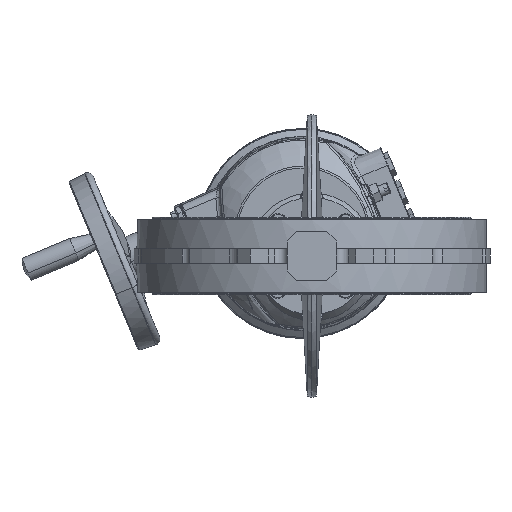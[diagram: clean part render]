
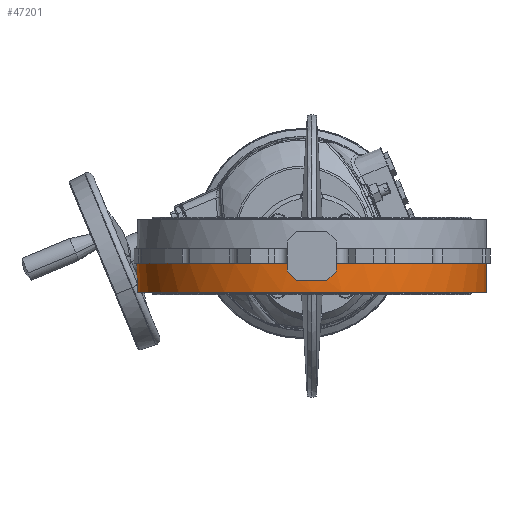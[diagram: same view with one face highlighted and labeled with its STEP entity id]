
A CAD part, front view. The second image highlights one B-rep face of the part: STEP entity #47201.
In plain terms, the highlighted conical face has half-angle 1.013 degrees and reference radius 186.548 mm.
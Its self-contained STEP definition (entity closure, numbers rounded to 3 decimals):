
#314 = DIRECTION ( 'NONE',  ( 0., 0., 1. ) ) ;
#1687 = CARTESIAN_POINT ( 'NONE',  ( 26., -184.727, -7.5 ) ) ;
#1875 = AXIS2_PLACEMENT_3D ( 'NONE', #25846, #92886, #27451 ) ;
#2343 = VERTEX_POINT ( 'NONE', #75138 ) ;
#5313 = VERTEX_POINT ( 'NONE', #12832 ) ;
#7457 = ORIENTED_EDGE ( 'NONE', *, *, #47027, .T. ) ;
#7886 = ORIENTED_EDGE ( 'NONE', *, *, #54599, .T. ) ;
#10441 = CARTESIAN_POINT ( 'NONE',  ( 26., -184.677, -10.333 ) ) ;
#11300 = DIRECTION ( 'NONE',  ( 0., 0., 1. ) ) ;
#11325 = DIRECTION ( 'NONE',  ( 1., 0., 0. ) ) ;
#11870 = AXIS2_PLACEMENT_3D ( 'NONE', #74496, #80104, #105189 ) ;
#12832 = CARTESIAN_POINT ( 'NONE',  ( 16., -185.532, -26. ) ) ;
#13002 = ORIENTED_EDGE ( 'NONE', *, *, #50093, .T. ) ;
#14525 = CARTESIAN_POINT ( 'NONE',  ( -16., -185.532, -26. ) ) ;
#14737 = ORIENTED_EDGE ( 'NONE', *, *, #72817, .T. ) ;
#14813 = CARTESIAN_POINT ( 'NONE',  ( 26., -184.576, -16. ) ) ;
#15525 = VERTEX_POINT ( 'NONE', #19373 ) ;
#16071 = AXIS2_PLACEMENT_3D ( 'NONE', #70215, #11300, #37524 ) ;
#16290 = EDGE_CURVE ( 'NONE', #2343, #5313, #59011, .T. ) ;
#18242 = ORIENTED_EDGE ( 'NONE', *, *, #88770, .T. ) ;
#19373 = CARTESIAN_POINT ( 'NONE',  ( -186., 0., -38.5 ) ) ;
#19984 = ORIENTED_EDGE ( 'NONE', *, *, #22987, .T. ) ;
#21399 = LINE ( 'NONE', #47042, #55746 ) ;
#22987 = EDGE_CURVE ( 'NONE', #5313, #49940, #57233, .T. ) ;
#24568 = CIRCLE ( 'NONE', #16071, 186. ) ;
#24607 = CIRCLE ( 'NONE', #1875, 186.548 ) ;
#25408 = EDGE_LOOP ( 'NONE', ( #29718, #7886, #14737, #29647, #13002, #48283, #19984, #55882, #18242, #7457 ) ) ;
#25846 = CARTESIAN_POINT ( 'NONE',  ( 0., 0., -7.5 ) ) ;
#26657 = CARTESIAN_POINT ( 'NONE',  ( -26., -184.727, -7.5 ) ) ;
#27451 = DIRECTION ( 'NONE',  ( 1., 0., 0. ) ) ;
#27881 = DIRECTION ( 'NONE',  ( 0.018, 0., 1. ) ) ;
#29123 = CARTESIAN_POINT ( 'NONE',  ( -16., -185.532, -26. ) ) ;
#29647 = ORIENTED_EDGE ( 'NONE', *, *, #34609, .T. ) ;
#29718 = ORIENTED_EDGE ( 'NONE', *, *, #102288, .F. ) ;
#29855 = CARTESIAN_POINT ( 'NONE',  ( -19.342, -185.304, -22.658 ) ) ;
#31002 = VERTEX_POINT ( 'NONE', #70270 ) ;
#31495 = CARTESIAN_POINT ( 'NONE',  ( 0., 0., -7.5 ) ) ;
#33714 = VERTEX_POINT ( 'NONE', #95697 ) ;
#34355 = CARTESIAN_POINT ( 'NONE',  ( -26., -184.626, -13.167 ) ) ;
#34609 = EDGE_CURVE ( 'NONE', #33714, #97966, #24607, .T. ) ;
#35393 = CARTESIAN_POINT ( 'NONE',  ( 0., 0., -7.5 ) ) ;
#37266 = CARTESIAN_POINT ( 'NONE',  ( -26., -184.576, -16. ) ) ;
#37524 = DIRECTION ( 'NONE',  ( 1., 0., 0. ) ) ;
#37654 =( BOUNDED_CURVE ( )  B_SPLINE_CURVE ( 3, ( #14525, #29855, #105087, #47827 ),
 .UNSPECIFIED., .F., .F. ) 
 B_SPLINE_CURVE_WITH_KNOTS ( ( 4, 4 ),
 ( 4.781, 4.835 ),
 .UNSPECIFIED. ) 
 CURVE ( )  GEOMETRIC_REPRESENTATION_ITEM ( )  RATIONAL_B_SPLINE_CURVE ( ( 1., 1., 1., 1. ) ) 
 REPRESENTATION_ITEM ( '' )  );
#41498 = CARTESIAN_POINT ( 'NONE',  ( -26., -184.576, -16. ) ) ;
#44923 = CIRCLE ( 'NONE', #58881, 186.548 ) ;
#47027 = EDGE_CURVE ( 'NONE', #31002, #96514, #44923, .T. ) ;
#47042 = CARTESIAN_POINT ( 'NONE',  ( -186.548, 0., -7.5 ) ) ;
#47201 = ADVANCED_FACE ( 'NONE', ( #56581 ), #72862, .T. ) ;
#47827 = CARTESIAN_POINT ( 'NONE',  ( -26., -184.576, -16. ) ) ;
#48116 = CARTESIAN_POINT ( 'NONE',  ( 22.676, -184.985, -19.324 ) ) ;
#48283 = ORIENTED_EDGE ( 'NONE', *, *, #16290, .T. ) ;
#49940 = VERTEX_POINT ( 'NONE', #29123 ) ;
#50093 = EDGE_CURVE ( 'NONE', #97966, #2343, #73183, .T. ) ;
#50671 = DIRECTION ( 'NONE',  ( 0., 0., -1. ) ) ;
#54599 = EDGE_CURVE ( 'NONE', #15525, #71016, #24568, .T. ) ;
#54789 = EDGE_CURVE ( 'NONE', #49940, #62172, #37654, .T. ) ;
#55746 = VECTOR ( 'NONE', #71601, 1000. ) ;
#55762 = CARTESIAN_POINT ( 'NONE',  ( 19.342, -185.304, -22.658 ) ) ;
#55882 = ORIENTED_EDGE ( 'NONE', *, *, #54789, .T. ) ;
#56581 = FACE_OUTER_BOUND ( 'NONE', #25408, .T. ) ;
#57233 = CIRCLE ( 'NONE', #11870, 186.221 ) ;
#58881 = AXIS2_PLACEMENT_3D ( 'NONE', #35393, #50671, #11325 ) ;
#59011 =( BOUNDED_CURVE ( )  B_SPLINE_CURVE ( 3, ( #14813, #48116, #55762, #63447 ),
 .UNSPECIFIED., .F., .T. ) 
 B_SPLINE_CURVE_WITH_KNOTS ( ( 4, 4 ),
 ( 1.448, 1.502 ),
 .UNSPECIFIED. ) 
 CURVE ( )  GEOMETRIC_REPRESENTATION_ITEM ( )  RATIONAL_B_SPLINE_CURVE ( ( 1., 1., 1., 1. ) ) 
 REPRESENTATION_ITEM ( '' )  );
#60136 = CARTESIAN_POINT ( 'NONE',  ( 186.548, 0., -7.5 ) ) ;
#62172 = VERTEX_POINT ( 'NONE', #37266 ) ;
#63447 = CARTESIAN_POINT ( 'NONE',  ( 16., -185.532, -26. ) ) ;
#65830 = CARTESIAN_POINT ( 'NONE',  ( -186.548, 0., -7.5 ) ) ;
#70215 = CARTESIAN_POINT ( 'NONE',  ( 0., 0., -38.5 ) ) ;
#70270 = CARTESIAN_POINT ( 'NONE',  ( -26., -184.727, -7.5 ) ) ;
#71016 = VERTEX_POINT ( 'NONE', #95129 ) ;
#71601 = DIRECTION ( 'NONE',  ( -0.018, 0., 1. ) ) ;
#72817 = EDGE_CURVE ( 'NONE', #71016, #33714, #92786, .T. ) ;
#72862 = CONICAL_SURFACE ( 'NONE', #79769, 186.548, 0.018 ) ;
#73183 = B_SPLINE_CURVE_WITH_KNOTS ( 'NONE', 3,
 ( #1687, #10441, #92261, #83548 ),
 .UNSPECIFIED., .F., .F.,
 ( 4, 4 ),
 ( 0., 1. ),
 .UNSPECIFIED. ) ;
#74496 = CARTESIAN_POINT ( 'NONE',  ( 0., 0., -26. ) ) ;
#75138 = CARTESIAN_POINT ( 'NONE',  ( 26., -184.576, -16. ) ) ;
#79769 = AXIS2_PLACEMENT_3D ( 'NONE', #31495, #314, #83758 ) ;
#80104 = DIRECTION ( 'NONE',  ( 0., 0., -1. ) ) ;
#83548 = CARTESIAN_POINT ( 'NONE',  ( 26., -184.576, -16. ) ) ;
#83758 = DIRECTION ( 'NONE',  ( 1., 0., 0. ) ) ;
#88770 = EDGE_CURVE ( 'NONE', #62172, #31002, #104013, .T. ) ;
#89228 = CARTESIAN_POINT ( 'NONE',  ( 26., -184.727, -7.5 ) ) ;
#92261 = CARTESIAN_POINT ( 'NONE',  ( 26., -184.626, -13.167 ) ) ;
#92786 = LINE ( 'NONE', #60136, #95094 ) ;
#92886 = DIRECTION ( 'NONE',  ( 0., 0., -1. ) ) ;
#95094 = VECTOR ( 'NONE', #27881, 1000. ) ;
#95129 = CARTESIAN_POINT ( 'NONE',  ( 186., 0., -38.5 ) ) ;
#95697 = CARTESIAN_POINT ( 'NONE',  ( 186.548, 0., -7.5 ) ) ;
#96514 = VERTEX_POINT ( 'NONE', #65830 ) ;
#97966 = VERTEX_POINT ( 'NONE', #89228 ) ;
#102288 = EDGE_CURVE ( 'NONE', #15525, #96514, #21399, .T. ) ;
#104013 = B_SPLINE_CURVE_WITH_KNOTS ( 'NONE', 3,
 ( #41498, #34355, #107951, #26657 ),
 .UNSPECIFIED., .F., .F.,
 ( 4, 4 ),
 ( 0., 1. ),
 .UNSPECIFIED. ) ;
#105087 = CARTESIAN_POINT ( 'NONE',  ( -22.676, -184.985, -19.324 ) ) ;
#105189 = DIRECTION ( 'NONE',  ( 1., 0., 0. ) ) ;
#107951 = CARTESIAN_POINT ( 'NONE',  ( -26., -184.677, -10.333 ) ) ;
